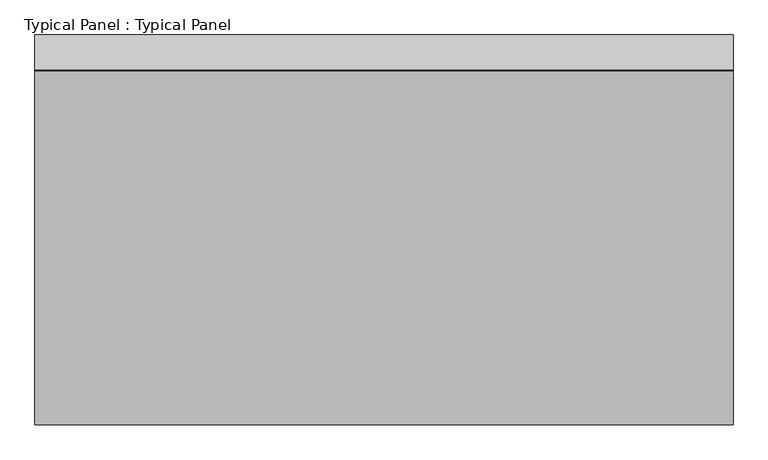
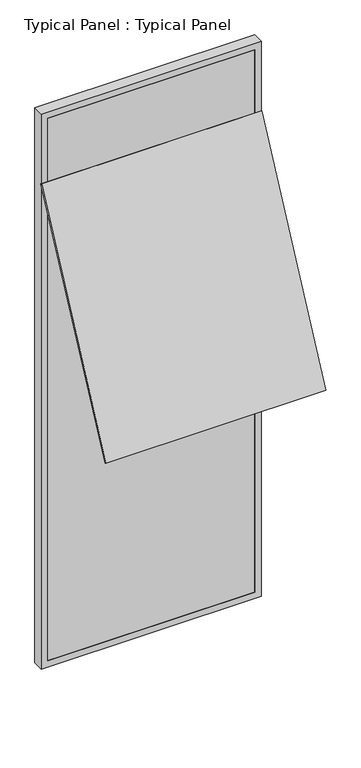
"""IFC4 building model written with IfcOpenShell, lengths in millimetres: plate geometry, Typical Panel : Typical Panel."""

import ifcopenshell
import ifcopenshell.guid

model = None  # the IFC model being written
_history = None  # IfcOwnerHistory: only IFC2X3 demands one
_inside = {}  # id of a spatial element -> (the spatial element, [elements in it])
_under = {}  # id of a project, library or spatial element -> (it, [spatial elements below it])
_declared = {}  # id of a project -> (the project, [libraries it declares])
_typed = {}  # id of a type object -> (the type object, [elements of that type])
_made_of = {}  # id of a material, layer set ... -> (it, [elements and type objects made of it])


def new_model(schema):
    """Start an empty IFC model of exactly this schema.

    Asked for "IFC4X3", IfcOpenShell would pick the latest addendum, in which some entities
    have other attributes; the version numbers below select the first issue.
    IFC2X3 requires an IfcOwnerHistory on every rooted entity: one is made here for all.
    """
    global model, _history
    if schema == "IFC4X3":
        model = ifcopenshell.file(schema_version=(4, 3, 0, 0))
    else:
        model = ifcopenshell.file(schema=schema)
    _inside.clear()
    _under.clear()
    _declared.clear()
    _typed.clear()
    _made_of.clear()
    _history = None
    if model.schema == "IFC2X3":
        org = make("IfcOrganization", Name="unknown")
        user = make(
            "IfcPersonAndOrganization",
            ThePerson=make("IfcPerson", FamilyName="unknown"),
            TheOrganization=org,
        )
        app = make(
            "IfcApplication",
            ApplicationDeveloper=org,
            Version="unknown",
            ApplicationFullName="unknown",
            ApplicationIdentifier="unknown",
        )
        _history = make(
            "IfcOwnerHistory",
            OwningUser=user,
            OwningApplication=app,
            ChangeAction="ADDED",
            CreationDate=0,
        )
    return model


def make(cls, **values):
    """One entity of the class cls with the attributes given. An attribute that is None is left unset."""
    return model.create_entity(
        cls, **{name: value for name, value in values.items() if value is not None}
    )


def rooted(cls, **values):
    """An entity with a GlobalId (a new one), such as an element, a storey or a relation."""
    return make(cls, GlobalId=ifcopenshell.guid.new(), OwnerHistory=_history, **values)


def si_unit(unit_type, name, prefix=None):
    """IfcSIUnit, for example si_unit("LENGTHUNIT", "METRE", prefix="MILLI")."""
    return make("IfcSIUnit", UnitType=unit_type, Prefix=prefix, Name=name)


def assignment(units):
    """IfcUnitAssignment: the units of a project."""
    return None if units is None else make("IfcUnitAssignment", Units=units)


def point(xyz):
    """IfcCartesianPoint."""
    return None if xyz is None else make("IfcCartesianPoint", Coordinates=xyz)


def direction(xyz):
    """IfcDirection."""
    return None if xyz is None else make("IfcDirection", DirectionRatios=xyz)


def frame(location, z_axis=None, x_axis=None):
    """IfcAxis2Placement3D, a coordinate frame: its origin and axes. An axis left out is left unset."""
    return make(
        "IfcAxis2Placement3D",
        Location=point(location),
        Axis=direction(z_axis),
        RefDirection=direction(x_axis),
    )


def origin():
    """The frame at (0, 0, 0) with its axes left unset."""
    return frame((0.0, 0.0, 0.0))


def place(relative_to, where):
    """IfcLocalPlacement: puts the frame where relative to a parent placement (None: the world)."""
    return make(
        "IfcLocalPlacement", PlacementRelTo=relative_to, RelativePlacement=where
    )


def context(
    kind, dimensions, precision=None, world=None, true_north=None, identifier=None
):
    """IfcGeometricRepresentationContext, for example the 3D "Model" context."""
    return make(
        "IfcGeometricRepresentationContext",
        ContextIdentifier=identifier,
        ContextType=kind,
        CoordinateSpaceDimension=dimensions,
        Precision=precision,
        WorldCoordinateSystem=world,
        TrueNorth=true_north,
    )


def project(units=None, contexts=None):
    """IfcProject with its units and contexts."""
    return rooted(
        "IfcProject",
        Name="project",
        RepresentationContexts=contexts,
        UnitsInContext=assignment(units),
    )


def spatial(cls, under=None, at=None, **own):
    """A site, building, storey or space (cls), placed at a placement, below another one or the project."""
    s = rooted(cls, ObjectPlacement=at, **own)
    if under is not None:
        _under.setdefault(under.id(), (under, []))[1].append(s)
    return s


def polyline(points):
    """IfcPolyline through the points."""
    return make("IfcPolyline", Points=[point(p) for p in points])


def outline(outer, holes=None, kind="AREA"):
    """IfcArbitraryClosedProfileDef: a profile drawn as a closed curve; with holes, ...WithVoids."""
    if holes is None:
        return make("IfcArbitraryClosedProfileDef", ProfileType=kind, OuterCurve=outer)
    return make(
        "IfcArbitraryProfileDefWithVoids",
        ProfileType=kind,
        OuterCurve=outer,
        InnerCurves=holes,
    )


def extrude(swept, where, along, depth):
    """IfcExtrudedAreaSolid: the profile swept, set in the frame where, extruded along a direction by depth."""
    return make(
        "IfcExtrudedAreaSolid",
        SweptArea=swept,
        Position=where,
        ExtrudedDirection=direction(along),
        Depth=depth,
    )


def shape(context_of_items, identifier, shape_type, items):
    """IfcShapeRepresentation: the items that make up one representation, for example the "Body"."""
    return make(
        "IfcShapeRepresentation",
        ContextOfItems=context_of_items,
        RepresentationIdentifier=identifier,
        RepresentationType=shape_type,
        Items=items,
    )


def source(mapping_origin, context_of_items, identifier, shape_type, items):
    """IfcRepresentationMap: a shape defined once, which mapped items show again and again."""
    return make(
        "IfcRepresentationMap",
        MappingOrigin=mapping_origin,
        MappedRepresentation=shape(context_of_items, identifier, shape_type, items),
    )


def transform(
    local_origin,
    x_axis=None,
    y_axis=None,
    z_axis=None,
    scale=None,
    scale2=None,
    scale3=None,
    uniform=True,
):
    """IfcCartesianTransformationOperator3D, or its non-uniform kind. x_axis, y_axis, z_axis: its Axis1, 2, 3."""
    if uniform:
        return make(
            "IfcCartesianTransformationOperator3D",
            Axis1=direction(x_axis),
            Axis2=direction(y_axis),
            LocalOrigin=point(local_origin),
            Scale=scale,
            Axis3=direction(z_axis),
        )
    return make(
        "IfcCartesianTransformationOperator3DnonUniform",
        Axis1=direction(x_axis),
        Axis2=direction(y_axis),
        LocalOrigin=point(local_origin),
        Scale=scale,
        Axis3=direction(z_axis),
        Scale2=scale2,
        Scale3=scale3,
    )


def mapped(mapping_source, mapping_target):
    """IfcMappedItem: shows the shape of a source again, moved by a transform."""
    return make(
        "IfcMappedItem", MappingSource=mapping_source, MappingTarget=mapping_target
    )


def made_of(thing, what):
    """Note that an element or type object is made of a material, layer set ...; save() writes the relation."""
    if what is not None:
        _made_of.setdefault(what.id(), (what, []))[1].append(thing)
    return thing


def element(
    cls,
    number,
    at=None,
    inside=None,
    cuts=None,
    type_object=None,
    material=None,
    context=None,
    identifier="Body",
    shape_type=None,
    held_by="IfcProductDefinitionShape",
    body=None,
    shapes=None,
    **own,
):
    """One element of the class cls, such as IfcWall. Its Tag is "e" and its number.

    at: its placement. inside: the storey or other place that contains it. cuts: it is an
    opening in that element (IfcRelVoidsElement). A single representation is given by context,
    identifier, shape_type and body (its items); several are given by shapes. held_by: the class
    of the entity that holds the representations. save() writes the other relations.
    """
    e = rooted(cls, Tag="e%d" % number, ObjectPlacement=at, **own)
    if body is not None:
        shapes = [shape(context, identifier, shape_type, body)]
    if shapes is not None:
        e.Representation = make(held_by, Representations=shapes)
    if inside is not None:
        _inside.setdefault(inside.id(), (inside, []))[1].append(e)
    if cuts is not None:
        rooted(
            "IfcRelVoidsElement", RelatingBuildingElement=cuts, RelatedOpeningElement=e
        )
    if type_object is not None:
        _typed.setdefault(type_object.id(), (type_object, []))[1].append(e)
    return made_of(e, material)


def aggregate(whole, parts):
    """IfcRelAggregates: a whole, such as a stair, and the parts it consists of."""
    return rooted("IfcRelAggregates", RelatingObject=whole, RelatedObjects=parts)


def save(model, path):
    """Write the relations noted so far, then the file.

    IfcRelAggregates (storeys below a building ...), IfcRelContainedInSpatialStructure (elements
    in a storey), IfcRelDefinesByType, IfcRelAssociatesMaterial and IfcRelDeclares: one each for
    every whole, place, type object, material and project.
    """
    for whole, parts in _under.values():
        aggregate(whole, parts)
    for where, things in _inside.values():
        rooted(
            "IfcRelContainedInSpatialStructure",
            RelatedElements=things,
            RelatingStructure=where,
        )
    for kind, things in _typed.values():
        rooted("IfcRelDefinesByType", RelatedObjects=things, RelatingType=kind)
    for what, things in _made_of.values():
        rooted("IfcRelAssociatesMaterial", RelatedObjects=things, RelatingMaterial=what)
    for by, libraries in _declared.values():
        rooted("IfcRelDeclares", RelatingContext=by, RelatedDefinitions=libraries)
    model.write(path)


def typical_panel_typical_panel_9d5c9c45(model_context):
    return source(origin(), model_context, "Body", "SweptSolid", [
        extrude(outline(polyline([(0.0, -10.0), (0.0, 0.0), (1500.0, 0.0), (1500.0, -10.0), (0.0, -10.0)])), frame((750.0, -763.3820839, 1945.0862999), z_axis=(0.0, 0.4383711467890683, 0.8987940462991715), x_axis=(-1.0, 0.0, 0.0)), (0.0, 0.0, 1.0), 1730.0),
        extrude(outline(polyline([(0.0, -750.0), (0.0, 750.0), (4000.0, 750.0), (4000.0, -750.0), (0.0, -750.0)]), holes=[polyline([(45.0, 705.0), (45.0, -705.0), (3955.0, -705.0), (3955.0, 705.0), (45.0, 705.0)])]), frame((0.0, -1.5797986, 0.0), z_axis=(0.0, 1.0, 0.0), x_axis=(0.0, 0.0, 1.0)), (0.0, 0.0, 1.0), 75.0),
        extrude(outline(polyline([(705.0, -1.5797986), (-705.0, -1.5797986), (-705.0, 13.4202014), (705.0, 13.4202014), (705.0, -1.5797986)])), frame((0.0, 0.0, 45.0), z_axis=(0.0, 0.0, 1.0), x_axis=(1.0, 0.0, 0.0)), (0.0, 0.0, 1.0), 3910.0),
    ])


if __name__ == "__main__":
    model = new_model("IFC4")
    model_context = context("Model", 3, world=origin())
    ifc_project = project(units=[si_unit("LENGTHUNIT", "METRE", prefix="MILLI")], contexts=[model_context])
    site = spatial("IfcSite", under=ifc_project)
    building = spatial("IfcBuilding", under=site)
    placement = place(None, origin())
    typical_panel_typical_panel_shape = typical_panel_typical_panel_9d5c9c45(model_context)
    element("IfcPlate", 1, ObjectType="Typical Panel : Typical Panel", at=placement, inside=building, context=model_context, shape_type="MappedRepresentation", body=[
        mapped(typical_panel_typical_panel_shape, transform((0.0, 0.0, 0.0), x_axis=(1.0, 0.0, 0.0), y_axis=(0.0, 1.0, 0.0), z_axis=(0.0, 0.0, 1.0))),
    ])
    save(model, "model.ifc")
